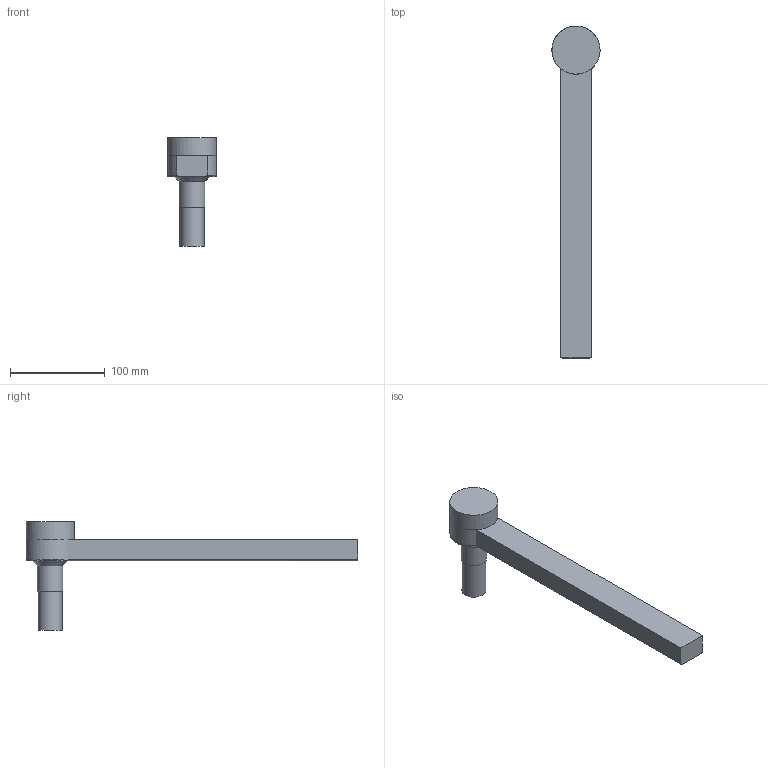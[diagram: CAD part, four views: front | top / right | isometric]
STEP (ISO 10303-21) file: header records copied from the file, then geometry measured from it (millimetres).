
FILE_DESCRIPTION(/* description */ (''),/* implementation_level */ '2;1');
FILE_NAME(/* name */ 'B0471TRUPas.stp',/* time_stamp */ '2019-10-02T15:42:04-04:00',/* author */ (''),/* organization */ (''),/* preprocessor_version */ 'ST-DEVELOPER v16',/* originating_system */ 'SIEMENS PLM Software NX 11.0',/* authorisation */ '');
FILE_SCHEMA (('AUTOMOTIVE_DESIGN { 1 0 10303 214 3 1 1 1 }'));
Length unit declared in the file: inch
Products named in the file (3): B04XX_SubSolid; B0471TRUPd; B0471TRUPas
Assembly tree (2 placements, depth 2):
  B0471TRUPas
    B0471TRUPd
    B04XX_SubSolid
Bounding box: 50.91 x 350.87 x 115.09 mm (x, y, z)
Volume: 411772.7 mm3; surface area: 64787.2 mm2
Topology: 2 solids, 3 shells, 34 faces, 72 edges, 45 vertices
Faces by surface type: plane 13, cylinder 10, cone 6, torus 3, sphere 1, revolution 1
Full cylindrical faces by diameter (mm): 8.731 x2, 25.4 x2, 26.987 x1, 50.927 x1
Entity records: 874 total; most frequent: CARTESIAN_POINT 167, DIRECTION 142, ORIENTED_EDGE 96, AXIS2_PLACEMENT_3D 62, EDGE_LOOP 54, EDGE_CURVE 48, FACE_BOUND 45, VERTEX_POINT 40
